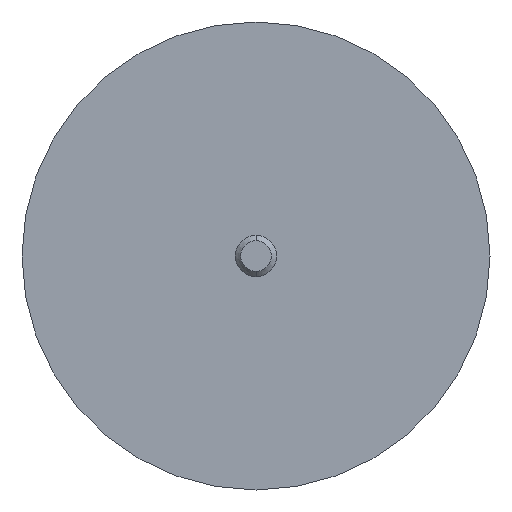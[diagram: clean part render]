
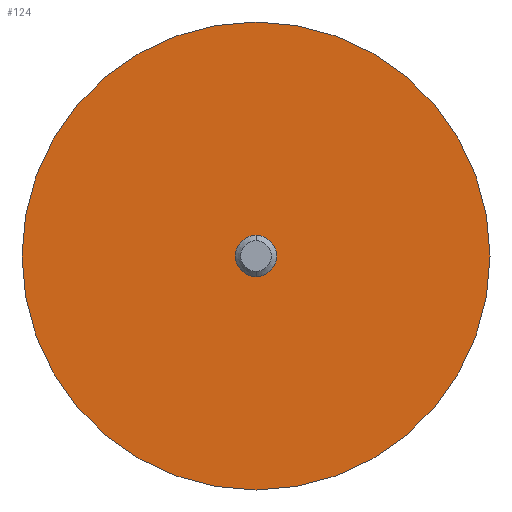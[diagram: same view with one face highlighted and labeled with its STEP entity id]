
A CAD part, front view. The second image highlights one B-rep face of the part: STEP entity #124.
In plain terms, the highlighted planar face has unit normal (0, -1, 0).
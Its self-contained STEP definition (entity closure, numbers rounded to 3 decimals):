
#38 = EDGE_CURVE ( 'NONE', #943, #777, #624, .T. ) ;
#65 = EDGE_CURVE ( 'NONE', #777, #943, #591, .T. ) ;
#79 = EDGE_CURVE ( 'NONE', #831, #162, #150, .T. ) ;
#104 = AXIS2_PLACEMENT_3D ( 'NONE', #354, #666, #900 ) ;
#108 = CARTESIAN_POINT ( 'NONE',  ( 0., 0., 6. ) ) ;
#124 = ADVANCED_FACE ( 'NONE', ( #363, #337 ), #995, .F. ) ;
#134 = CARTESIAN_POINT ( 'NONE',  ( 0., 0., 0. ) ) ;
#150 = CIRCLE ( 'NONE', #779, 6. ) ;
#162 = VERTEX_POINT ( 'NONE', #378 ) ;
#166 = AXIS2_PLACEMENT_3D ( 'NONE', #679, #202, #288 ) ;
#187 = DIRECTION ( 'NONE',  ( 0., -1., 0. ) ) ;
#202 = DIRECTION ( 'NONE',  ( 0., -1., 0. ) ) ;
#238 = AXIS2_PLACEMENT_3D ( 'NONE', #278, #187, #741 ) ;
#278 = CARTESIAN_POINT ( 'NONE',  ( 0., 0., 0. ) ) ;
#285 = DIRECTION ( 'NONE',  ( 0., 0., 1. ) ) ;
#288 = DIRECTION ( 'NONE',  ( 0., 0., 1. ) ) ;
#337 = FACE_OUTER_BOUND ( 'NONE', #702, .T. ) ;
#339 = ORIENTED_EDGE ( 'NONE', *, *, #65, .T. ) ;
#354 = CARTESIAN_POINT ( 'NONE',  ( 0., 0., 0. ) ) ;
#363 = FACE_BOUND ( 'NONE', #519, .T. ) ;
#378 = CARTESIAN_POINT ( 'NONE',  ( 0., 0., -6. ) ) ;
#396 = EDGE_CURVE ( 'NONE', #162, #831, #939, .T. ) ;
#404 = ORIENTED_EDGE ( 'NONE', *, *, #79, .F. ) ;
#406 = CARTESIAN_POINT ( 'NONE',  ( 0., 0., 68. ) ) ;
#441 = CARTESIAN_POINT ( 'NONE',  ( 0., 0., -68. ) ) ;
#446 = DIRECTION ( 'NONE',  ( 0., 0., 1. ) ) ;
#449 = DIRECTION ( 'NONE',  ( 0., -1., 0. ) ) ;
#519 = EDGE_LOOP ( 'NONE', ( #404, #636 ) ) ;
#581 = AXIS2_PLACEMENT_3D ( 'NONE', #134, #598, #285 ) ;
#591 = CIRCLE ( 'NONE', #238, 68. ) ;
#595 = CARTESIAN_POINT ( 'NONE',  ( 0., 0., 0. ) ) ;
#598 = DIRECTION ( 'NONE',  ( 0., 1., 0. ) ) ;
#624 = CIRCLE ( 'NONE', #104, 68. ) ;
#636 = ORIENTED_EDGE ( 'NONE', *, *, #396, .F. ) ;
#666 = DIRECTION ( 'NONE',  ( 0., -1., 0. ) ) ;
#679 = CARTESIAN_POINT ( 'NONE',  ( 0., 0., 0. ) ) ;
#702 = EDGE_LOOP ( 'NONE', ( #977, #339 ) ) ;
#741 = DIRECTION ( 'NONE',  ( 0., 0., -1. ) ) ;
#777 = VERTEX_POINT ( 'NONE', #406 ) ;
#779 = AXIS2_PLACEMENT_3D ( 'NONE', #595, #449, #446 ) ;
#831 = VERTEX_POINT ( 'NONE', #108 ) ;
#900 = DIRECTION ( 'NONE',  ( 0., 0., -1. ) ) ;
#939 = CIRCLE ( 'NONE', #166, 6. ) ;
#943 = VERTEX_POINT ( 'NONE', #441 ) ;
#977 = ORIENTED_EDGE ( 'NONE', *, *, #38, .T. ) ;
#995 = PLANE ( 'NONE',  #581 ) ;
